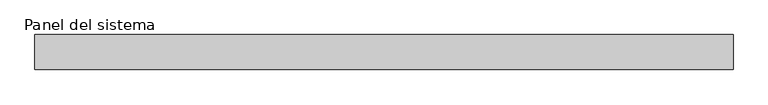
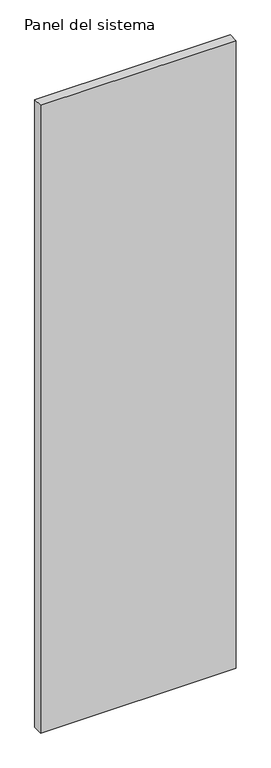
"""IFC4 building model written with IfcOpenShell, lengths in millimetres: plate geometry, Panel del sistema : HIANSA PANEL - PANELES DE CUBIERTA SIN TAPAJUNTA - EASY CUB 3GR - Esp. 50mm."""

from ifc_helpers import new_model, si_unit, origin, origin_with_axes, place, context, project, spatial, polyline, outline, extrude, source, transform, mapped, element, save


def panel_del_sistema_6634fb51(model_context):
    return source(origin(), model_context, "Body", "SweptSolid", [
        extrude(outline(polyline([(500.0000002, 0.0), (-500.0000002, 0.0), (-500.0000002, 50.0), (500.0000002, 50.0), (500.0000002, 0.0)])), origin_with_axes(), (0.0, 0.0, 1.0), 3390.8509027),
    ])


if __name__ == "__main__":
    model = new_model("IFC4")
    model_context = context("Model", 3, world=origin())
    ifc_project = project(units=[si_unit("LENGTHUNIT", "METRE", prefix="MILLI")], contexts=[model_context])
    site = spatial("IfcSite", under=ifc_project)
    building = spatial("IfcBuilding", under=site)
    placement = place(None, origin())
    panel_del_sistema_shape = panel_del_sistema_6634fb51(model_context)
    element("IfcPlate", 1, ObjectType="Panel del sistema : HIANSA PANEL - PANELES DE CUBIERTA SIN TAPAJUNTA - EASY CUB 3GR - Esp. 50mm", at=placement, inside=building, context=model_context, shape_type="MappedRepresentation", body=[
        mapped(panel_del_sistema_shape, transform((0.0, 0.0, 0.0), x_axis=(1.0, 0.0, 0.0), y_axis=(0.0, 1.0, 0.0), z_axis=(0.0, 0.0, 1.0))),
    ])
    save(model, "model.ifc")
